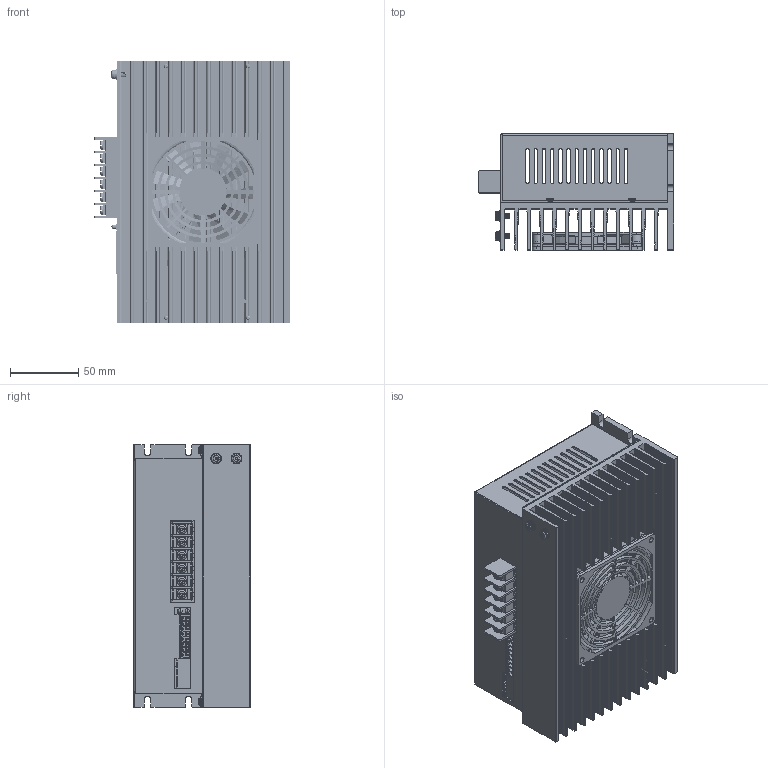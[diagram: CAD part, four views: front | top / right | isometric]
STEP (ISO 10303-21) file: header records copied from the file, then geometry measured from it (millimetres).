
FILE_DESCRIPTION (( 'STEP AP214' ), '1' );
FILE_NAME ('2DM2280.STEP', '2018-01-12T03:45:53', ( '' ), ( '' ), 'SwSTEP 2.0', 'SolidWorks 2016', '' );
FILE_SCHEMA (( 'AUTOMOTIVE_DESIGN' ));
Length unit declared in the file: millimetre
Products named in the file (13): switch 8way; 窪伎埴芛湍簽M3x6; 2DM2280裔赽; DG9.5-6; 2DM2280 PCB; M4x8郪磁蹟佪; two led; 8010fan; 2DM2280; 3.81 8way; 80FAN GUARD; RJ21; 2DM2280散热器
Assembly tree (16 placements, depth 2):
  2DM2280
    2DM2280散热器
    2DM2280 PCB
    3.81 8way
    RJ21
    switch 8way
    two led
    8010fan
    80FAN GUARD
    DG9.5-6
    2DM2280裔赽
    窪伎埴芛湍簽M3x6  x4
    M4x8郪磁蹟佪  x2
Bounding box: 142.9 x 85.01 x 192 mm (x, y, z)
Volume: 418909.8 mm3; surface area: 396035 mm2
Topology: 14 solids, 40 shells, 7178 faces, 21073 edges, 13905 vertices
Faces by surface type: cylinder 3498, plane 3338, bspline 182, torus 86, cone 59, sphere 15
Entity records: 300257 total; most frequent: CARTESIAN_POINT 96545, ORIENTED_EDGE 39699, DIRECTION 37843, EDGE_CURVE 20038, VERTEX_POINT 13239, AXIS2_PLACEMENT_3D 12951, LINE 11941, VECTOR 11941
